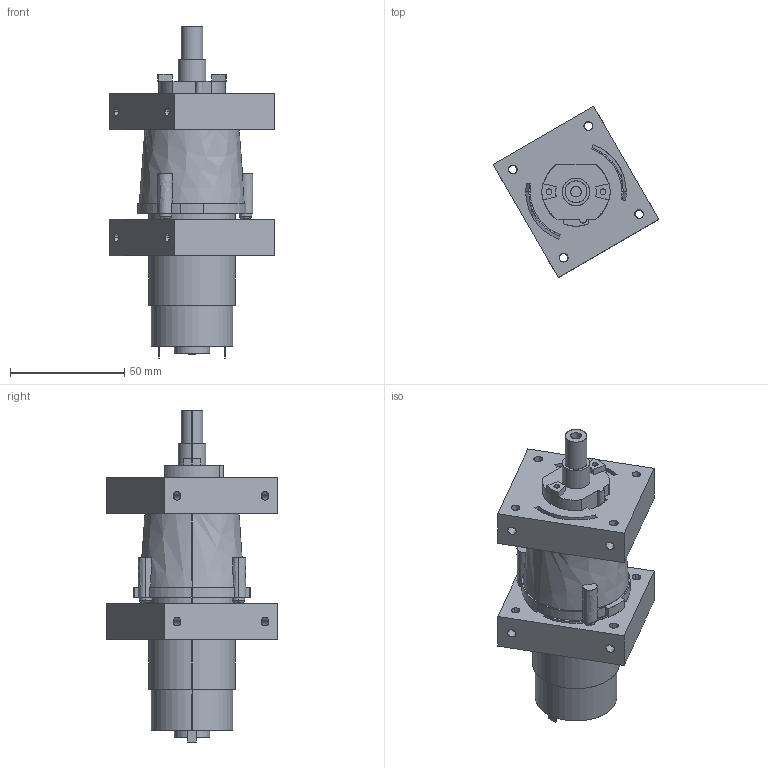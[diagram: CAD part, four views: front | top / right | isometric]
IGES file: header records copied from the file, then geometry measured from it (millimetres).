
Start section: SolidWorks IGES FILE using analytic representation for surfaces
Global section: file name: I:\Solidworks models\motor and mountings files\Drill drive Train.IGS; native system: SolidWorks 2001Plus by SolidWorks Corporation; preprocessor: Version 5.3; author: thesmith; date: 091008.212959; units: millimetre
Bounding box: 72.57 x 74.89 x 145.18 mm (x, y, z)
Surface area: 45983 mm2 (no closed solid volume)
Topology: 0 solids, 0 shells, 219 faces, 4499 edges, 4499 vertices
Faces by surface type: revolution 131, bspline 88
